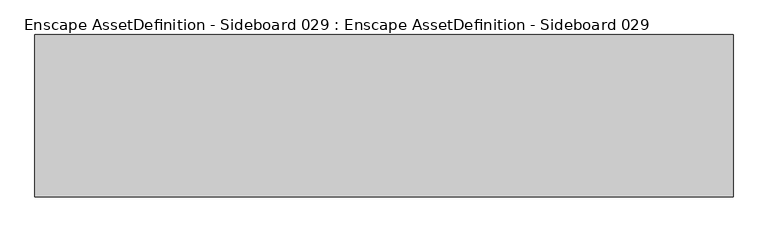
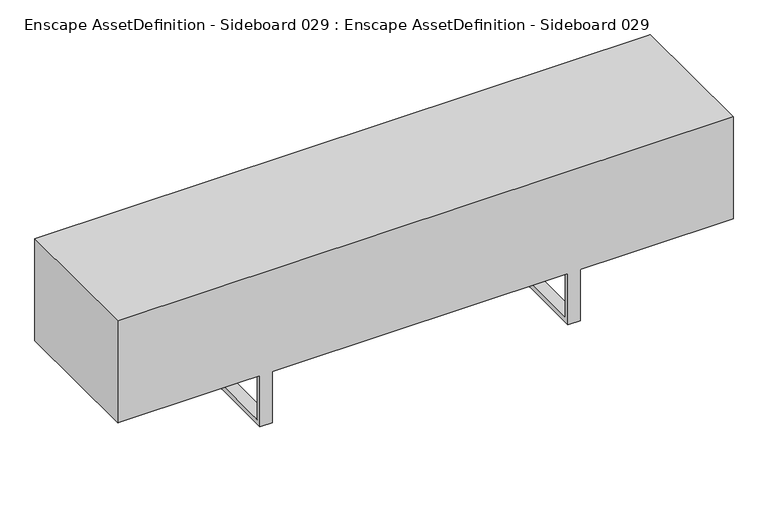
"""IFC4 building model written with IfcOpenShell, lengths in millimetres: geographic element geometry, Enscape AssetDefinition - Sideboard 029 : Enscape AssetDefinition - Sideboard 029."""

from ifc_helpers import new_model, si_unit, origin, place, context, project, spatial, triangles, source, transform, mapped, element, save


def enscape_assetdefinition_sideboard_029_enscape_7678e0aa(model_context):
    return source(origin(), model_context, "Body", "Tessellation", [
        triangles([(-521.019978, -101.7129958, 207.1839925), (-521.019978, -101.7129958, 0.0), (-481.0200213, -101.7129958, 207.1839925), (-521.019978, -86.7129938, 207.1839925), (-481.0200213, -86.7129938, 207.1839925), (-481.0200213, -86.7129938, 14.9999997), (-521.019978, 303.2869746, 14.9999997), (-481.0200213, 303.2869746, 14.9999997), (-521.019978, 318.2869675, 0.0), (-521.019978, -86.7129938, 14.9999997), (-481.0200213, -101.7129958, 0.0), (-481.0200213, 303.2869746, 207.1839925), (-481.0200213, 318.2869675, 0.0), (-481.0200213, 318.2869675, 207.1839925), (-521.019978, 318.2869675, 207.1839925), (-521.019978, 303.2869746, 207.1839925), (478.9799569, -101.7129958, 207.1839925), (478.9799569, -86.7129938, 207.1839925), (518.97995, -101.7129958, 207.1839925), (478.9799569, -86.7129938, 14.9999997), (518.97995, -101.7129958, 0.0), (518.97995, -86.7129938, 207.1839925), (518.97995, -86.7129938, 14.9999997), (478.9799569, -101.7129958, 0.0), (478.9799569, 303.2869746, 207.1839925), (518.97995, 303.2869746, 14.9999997), (478.9799569, 303.2869746, 14.9999997), (518.97995, 318.2869675, 0.0), (478.9799569, 318.2869675, 0.0), (518.97995, 303.2869746, 207.1839925), (478.9799569, 318.2869675, 207.1839925), (518.97995, 318.2869675, 207.1839925), (-1001.0199308, -131.7129996, 199.9999834), (998.9800117, -131.7129996, 199.9999834), (998.9800117, 333.2869967, 199.9999834), (-1001.0199308, 333.2869967, 199.9999834), (-1001.0199308, -131.7129996, 550.0000042), (998.9800117, -131.7129996, 550.0000042), (998.9800117, 333.2869967, 550.0000042), (-1001.0199308, 333.2869967, 550.0000042)], [[36, 37, 40], [37, 39, 40], [37, 38, 39], [34, 39, 38], [35, 36, 40], [34, 35, 39], [35, 40, 39], [36, 33, 37], [33, 34, 38], [33, 36, 35], [33, 38, 37], [33, 35, 34], [31, 25, 30], [31, 30, 32], [28, 32, 30], [32, 28, 29], [29, 31, 32], [31, 29, 27], [27, 25, 31], [25, 27, 26], [30, 26, 28], [26, 30, 25], [26, 23, 28], [23, 21, 28], [28, 21, 29], [21, 24, 29], [21, 19, 24], [20, 23, 26], [29, 24, 20], [27, 20, 26], [29, 20, 27], [20, 18, 23], [18, 22, 23], [22, 19, 21], [23, 22, 21], [17, 18, 20], [19, 17, 24], [17, 19, 22], [24, 17, 20], [17, 22, 18], [15, 16, 12], [15, 12, 14], [13, 14, 12], [14, 13, 9], [9, 15, 14], [15, 9, 7], [7, 16, 15], [16, 7, 8], [12, 8, 13], [8, 12, 16], [8, 6, 13], [6, 11, 13], [13, 11, 9], [11, 2, 9], [11, 3, 2], [10, 6, 8], [9, 2, 10], [7, 10, 8], [9, 10, 7], [10, 4, 6], [4, 5, 6], [5, 3, 11], [6, 5, 11], [1, 4, 10], [3, 1, 2], [1, 3, 5], [2, 1, 10], [1, 5, 4]]),
    ])


if __name__ == "__main__":
    model = new_model("IFC4")
    model_context = context("Model", 3, world=origin())
    ifc_project = project(units=[si_unit("LENGTHUNIT", "METRE", prefix="MILLI")], contexts=[model_context])
    site = spatial("IfcSite", under=ifc_project)
    building = spatial("IfcBuilding", under=site)
    placement = place(None, origin())
    enscape_assetdefinition_sideboard_029_enscape_shape = enscape_assetdefinition_sideboard_029_enscape_7678e0aa(model_context)
    element("IfcGeographicElement", 1, ObjectType="Enscape AssetDefinition - Sideboard 029 : Enscape AssetDefinition - Sideboard 029", at=placement, inside=building, context=model_context, shape_type="MappedRepresentation", body=[
        mapped(enscape_assetdefinition_sideboard_029_enscape_shape, transform((0.0, 0.0, 0.0), x_axis=(1.0, 0.0, 0.0), y_axis=(0.0, 1.0, 0.0), z_axis=(0.0, 0.0, 1.0))),
    ])
    save(model, "model.ifc")
